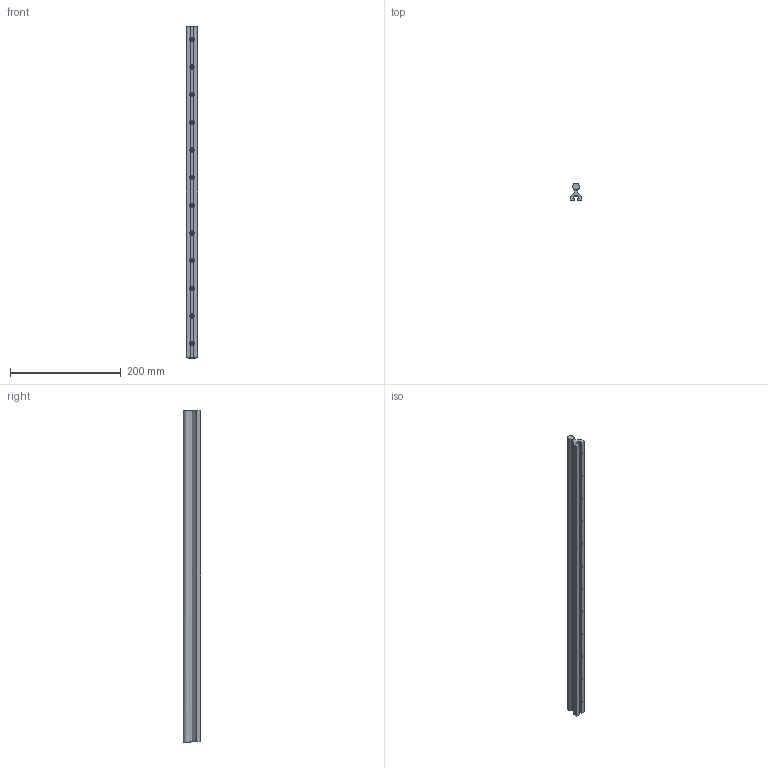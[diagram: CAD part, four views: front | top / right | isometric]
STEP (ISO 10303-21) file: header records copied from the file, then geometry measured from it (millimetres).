
FILE_DESCRIPTION (( 'STEP AP203' ), '1' );
FILE_NAME ('LFS-12-11_-_LFS-12-11 L=598 - ArtNr 220002 0598.step', '2015-05-04T10:55:11', ( '' ), ( '' ), 'SwSTEP 2.0', 'SolidWorks 2014', '' );
FILE_SCHEMA (( 'CONFIG_CONTROL_DESIGN' ));
Length unit declared in the file: millimetre
Products named in the file (1): LFS-12-11_-_LFS-12-11 L=598 - ArtNr 220002 0598
Bounding box: 20 x 31 x 600 mm (x, y, z)
Volume: 181078.4 mm3; surface area: 81378.3 mm2
Topology: 1 solids, 1 shells, 442 faces, 1192 edges, 762 vertices
Faces by surface type: plane 211, cylinder 207, cone 12, torus 12
Full cylindrical faces by diameter (mm): 7 x12, 8 x12, 12 x1
Entity records: 14252 total; most frequent: CARTESIAN_POINT 4122, ORIENTED_EDGE 2236, DIRECTION 1845, EDGE_CURVE 1118, VERTEX_POINT 737, AXIS2_PLACEMENT_3D 620, VECTOR 605, LINE 605
